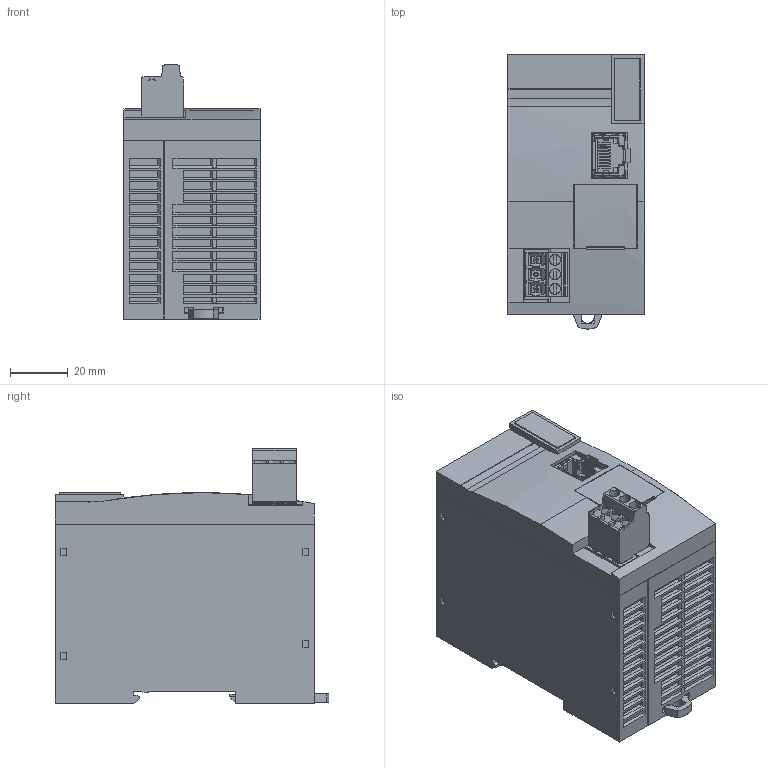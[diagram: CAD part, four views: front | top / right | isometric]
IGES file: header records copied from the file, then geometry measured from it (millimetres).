
Start section: SolidWorks IGES file using analytic representation for surfaces
Global section: file name: \\s-w08-ifile002\003_技術管理室\_3D外形図中間ファイル[受渡し用]\OUTSIDE-FC6A-EXM1S.IGS; native system: SolidWorks 2014; preprocessor: SolidWorks 2014; author: 1002813; date: 170630.125655; units: millimetre
Bounding box: 47.2 x 95 x 88.15 mm (x, y, z)
Surface area: 63457.1 mm2 (no closed solid volume)
Topology: 0 solids, 0 shells, 1903 faces, 12749 edges, 12638 vertices
Faces by surface type: bspline 1521, revolution 382
